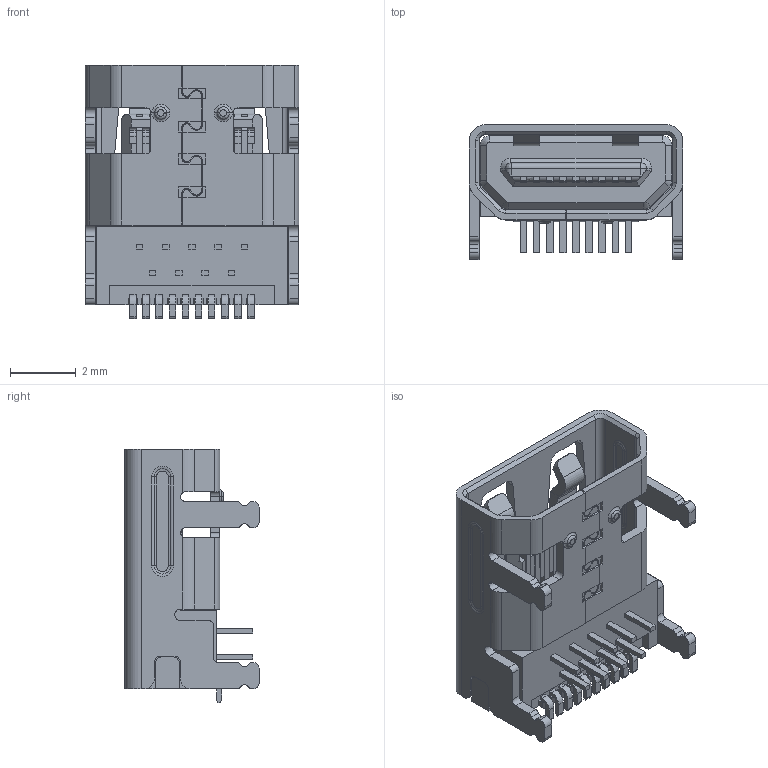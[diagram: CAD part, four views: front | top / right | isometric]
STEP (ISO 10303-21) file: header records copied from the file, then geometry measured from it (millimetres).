
FILE_DESCRIPTION (( 'STEP AP214' ), '1' );
FILE_NAME ('GT-HD004B-XXXGX.stp', '2024-07-01T01:15:22', ( '' ), ( '' ), 'SwSTEP 2.0', 'SolidWorks 2023', '' );
FILE_SCHEMA (( 'AUTOMOTIVE_DESIGN' ));
Length unit declared in the file: millimetre
Products named in the file (1): GT-HD004B-XXXGX
Bounding box: 6.5 x 4.1 x 7.73 mm (x, y, z)
Volume: 72.8 mm3; surface area: 396.4 mm2
Topology: 2 solids, 2 shells, 1266 faces, 3562 edges, 2345 vertices
Faces by surface type: plane 897, cylinder 239, bspline 88, torus 24, cone 18
Entity records: 44614 total; most frequent: CARTESIAN_POINT 11959, ORIENTED_EDGE 7124, DIRECTION 6283, EDGE_CURVE 3562, VECTOR 2787, LINE 2787, VERTEX_POINT 2345, AXIS2_PLACEMENT_3D 1748
